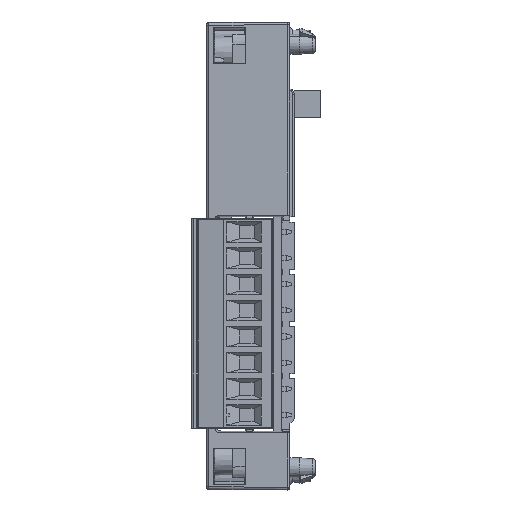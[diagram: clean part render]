
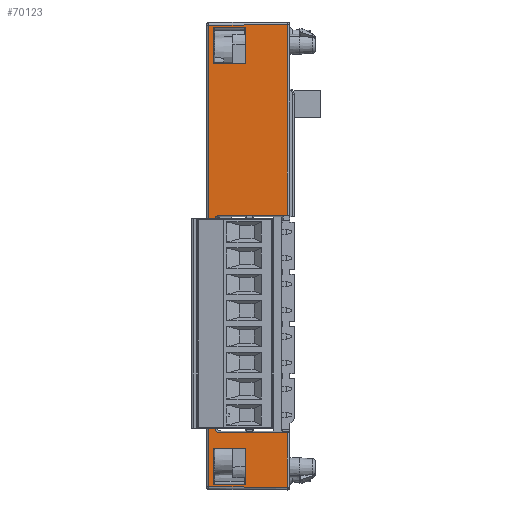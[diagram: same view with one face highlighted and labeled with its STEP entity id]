
A CAD part, left-side view. The second image highlights one B-rep face of the part: STEP entity #70123.
In plain terms, the highlighted planar face has unit normal (-1, 0.009, 0).
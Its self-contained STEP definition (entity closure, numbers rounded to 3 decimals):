
#600=ELLIPSE('',#74551,0.823,0.8);
#602=ELLIPSE('',#74554,0.823,0.8);
#3151=PLANE('',#74877);
#4256=FACE_BOUND('',#26709,.T.);
#4257=FACE_BOUND('',#26710,.T.);
#10505=LINE('',#111856,#17599);
#10514=LINE('',#111880,#17608);
#10519=LINE('',#111893,#17613);
#10526=LINE('',#112139,#17620);
#10536=LINE('',#112307,#17630);
#10547=LINE('',#112333,#17641);
#10553=LINE('',#112357,#17647);
#10558=LINE('',#112370,#17652);
#10565=LINE('',#112635,#17659);
#10774=LINE('',#114670,#17868);
#10799=LINE('',#114721,#17893);
#10812=LINE('',#114745,#17906);
#11333=LINE('',#116303,#18427);
#11349=LINE('',#116330,#18443);
#11370=LINE('',#116363,#18464);
#11372=LINE('',#116366,#18466);
#17599=VECTOR('',#87046,6.127);
#17608=VECTOR('',#87067,7.006);
#17613=VECTOR('',#87078,6.127);
#17620=VECTOR('',#87127,15.001);
#17630=VECTOR('',#87203,6.127);
#17641=VECTOR('',#87226,7.006);
#17647=VECTOR('',#87240,7.008);
#17652=VECTOR('',#87251,6.127);
#17659=VECTOR('',#87296,15.001);
#17868=VECTOR('',#88191,13.03);
#17893=VECTOR('',#88232,40.023);
#17906=VECTOR('',#88249,13.03);
#18427=VECTOR('',#89354,10.463);
#18443=VECTOR('',#89384,36.427);
#18464=VECTOR('',#89425,88.229);
#18466=VECTOR('',#89429,7.008);
#22735=FACE_OUTER_BOUND('',#26708,.T.);
#26708=EDGE_LOOP('',(#58873,#58874,#58875,#58876,#58877,#58878,#58879,#58880,
#58881,#58882));
#26709=EDGE_LOOP('',(#58883,#58884,#58885,#58886));
#26710=EDGE_LOOP('',(#58887,#58888,#58889,#58890));
#32437=VERTEX_POINT('',#111854);
#32438=VERTEX_POINT('',#111855);
#32447=VERTEX_POINT('',#111879);
#32452=VERTEX_POINT('',#111892);
#32474=VERTEX_POINT('',#112131);
#32476=VERTEX_POINT('',#112136);
#32500=VERTEX_POINT('',#112305);
#32501=VERTEX_POINT('',#112306);
#32510=VERTEX_POINT('',#112331);
#32520=VERTEX_POINT('',#112356);
#32546=VERTEX_POINT('',#112628);
#32548=VERTEX_POINT('',#112633);
#32923=VERTEX_POINT('',#114644);
#32924=VERTEX_POINT('',#114646);
#32926=VERTEX_POINT('',#114651);
#32927=VERTEX_POINT('',#114654);
#32932=VERTEX_POINT('',#114668);
#32959=VERTEX_POINT('',#114744);
#40902=EDGE_CURVE('',#32437,#32438,#10505,.T.);
#40914=EDGE_CURVE('',#32437,#32447,#10514,.T.);
#40921=EDGE_CURVE('',#32452,#32447,#10519,.T.);
#40956=EDGE_CURVE('',#32474,#32476,#10526,.T.);
#40992=EDGE_CURVE('',#32500,#32501,#10536,.T.);
#41006=EDGE_CURVE('',#32500,#32510,#10547,.T.);
#41016=EDGE_CURVE('',#32501,#32520,#10553,.T.);
#41023=EDGE_CURVE('',#32520,#32510,#10558,.T.);
#41055=EDGE_CURVE('',#32546,#32548,#10565,.T.);
#41546=EDGE_CURVE('',#32923,#32924,#600,.T.);
#41550=EDGE_CURVE('',#32926,#32927,#602,.T.);
#41557=EDGE_CURVE('',#32932,#32924,#10774,.T.);
#41583=EDGE_CURVE('',#32923,#32927,#10799,.T.);
#41596=EDGE_CURVE('',#32959,#32926,#10812,.T.);
#42215=EDGE_CURVE('',#32548,#32959,#11333,.T.);
#42231=EDGE_CURVE('',#32932,#32476,#11349,.T.);
#42252=EDGE_CURVE('',#32474,#32546,#11370,.T.);
#42254=EDGE_CURVE('',#32438,#32452,#11372,.T.);
#58873=ORIENTED_EDGE('',*,*,#42231,.T.);
#58874=ORIENTED_EDGE('',*,*,#40956,.F.);
#58875=ORIENTED_EDGE('',*,*,#42252,.T.);
#58876=ORIENTED_EDGE('',*,*,#41055,.T.);
#58877=ORIENTED_EDGE('',*,*,#42215,.T.);
#58878=ORIENTED_EDGE('',*,*,#41596,.T.);
#58879=ORIENTED_EDGE('',*,*,#41550,.T.);
#58880=ORIENTED_EDGE('',*,*,#41583,.F.);
#58881=ORIENTED_EDGE('',*,*,#41546,.T.);
#58882=ORIENTED_EDGE('',*,*,#41557,.F.);
#58883=ORIENTED_EDGE('',*,*,#41023,.F.);
#58884=ORIENTED_EDGE('',*,*,#41016,.F.);
#58885=ORIENTED_EDGE('',*,*,#40992,.F.);
#58886=ORIENTED_EDGE('',*,*,#41006,.T.);
#58887=ORIENTED_EDGE('',*,*,#40921,.T.);
#58888=ORIENTED_EDGE('',*,*,#40914,.F.);
#58889=ORIENTED_EDGE('',*,*,#40902,.T.);
#58890=ORIENTED_EDGE('',*,*,#42254,.T.);
#70123=ADVANCED_FACE('',(#22735,#4256,#4257),#3151,.T.);
#74551=AXIS2_PLACEMENT_3D('',#114648,#88170,#88171);
#74554=AXIS2_PLACEMENT_3D('',#114656,#88178,#88179);
#74877=AXIS2_PLACEMENT_3D('',#116365,#89427,#89428);
#87046=DIRECTION('',(-0.009,-1.,0.));
#87067=DIRECTION('',(0.,0.,-1.));
#87078=DIRECTION('',(0.009,1.,0.));
#87127=DIRECTION('',(-0.009,-1.,0.009));
#87203=DIRECTION('',(-0.009,-1.,0.));
#87226=DIRECTION('',(0.,0.,1.));
#87240=DIRECTION('',(0.,0.,1.));
#87251=DIRECTION('',(0.009,1.,0.));
#87296=DIRECTION('',(-0.009,-1.,-0.009));
#88170=DIRECTION('center_axis',(1.,-0.009,
0.));
#88171=DIRECTION('ref_axis',(0.006,0.688,0.725));
#88178=DIRECTION('center_axis',(1.,-0.009,
0.));
#88179=DIRECTION('ref_axis',(0.006,0.688,-0.725));
#88191=DIRECTION('',(0.009,1.,0.));
#88232=DIRECTION('',(0.,0.,-1.));
#88249=DIRECTION('',(0.009,1.,0.));
#89354=DIRECTION('',(0.,0.,1.));
#89384=DIRECTION('',(0.,0.,1.));
#89425=DIRECTION('',(0.,0.,-1.));
#89427=DIRECTION('center_axis',(-1.,0.009,
0.));
#89428=DIRECTION('ref_axis',(0.,0.,1.));
#89429=DIRECTION('',(0.,0.,-1.));
#111854=CARTESIAN_POINT('',(-31.373,8.867,14.772));
#111855=CARTESIAN_POINT('',(-31.426,2.741,14.773));
#111856=CARTESIAN_POINT('',(-31.373,8.867,14.772));
#111879=CARTESIAN_POINT('',(-31.373,8.867,7.767));
#111880=CARTESIAN_POINT('',(-31.373,8.867,14.772));
#111892=CARTESIAN_POINT('',(-31.426,2.741,7.766));
#111893=CARTESIAN_POINT('',(-31.426,2.741,7.766));
#112131=CARTESIAN_POINT('',(-31.365,9.764,15.115));
#112136=CARTESIAN_POINT('',(-31.496,-5.236,15.246));
#112139=CARTESIAN_POINT('',(-31.365,9.764,15.115));
#112305=CARTESIAN_POINT('',(-31.373,8.867,-72.772));
#112306=CARTESIAN_POINT('',(-31.426,2.741,-72.773));
#112307=CARTESIAN_POINT('',(-31.373,8.867,-72.772));
#112331=CARTESIAN_POINT('',(-31.373,8.867,-65.767));
#112333=CARTESIAN_POINT('',(-31.373,8.867,-72.772));
#112356=CARTESIAN_POINT('',(-31.426,2.741,-65.766));
#112357=CARTESIAN_POINT('',(-31.426,2.741,-72.773));
#112370=CARTESIAN_POINT('',(-31.426,2.741,-65.766));
#112628=CARTESIAN_POINT('',(-31.365,9.764,-73.115));
#112633=CARTESIAN_POINT('',(-31.496,-5.236,-73.246));
#112635=CARTESIAN_POINT('',(-31.365,9.764,-73.115));
#114644=CARTESIAN_POINT('',(-31.375,8.582,-21.97));
#114646=CARTESIAN_POINT('',(-31.382,7.794,-21.181));
#114648=CARTESIAN_POINT('Origin',(-31.382,7.771,-21.994));
#114651=CARTESIAN_POINT('',(-31.382,7.794,-62.782));
#114654=CARTESIAN_POINT('',(-31.375,8.582,-61.993));
#114656=CARTESIAN_POINT('Origin',(-31.382,7.771,-61.97));
#114668=CARTESIAN_POINT('',(-31.496,-5.236,-21.181));
#114670=CARTESIAN_POINT('',(-31.496,-5.236,-21.181));
#114721=CARTESIAN_POINT('',(-31.375,8.582,-21.97));
#114744=CARTESIAN_POINT('',(-31.496,-5.236,-62.782));
#114745=CARTESIAN_POINT('',(-31.496,-5.236,-62.782));
#116303=CARTESIAN_POINT('',(-31.496,-5.236,-73.246));
#116330=CARTESIAN_POINT('',(-31.496,-5.236,-21.181));
#116363=CARTESIAN_POINT('',(-31.365,9.764,15.115));
#116365=CARTESIAN_POINT('Origin',(-31.5,-5.74,-73.75));
#116366=CARTESIAN_POINT('',(-31.426,2.741,14.773));
